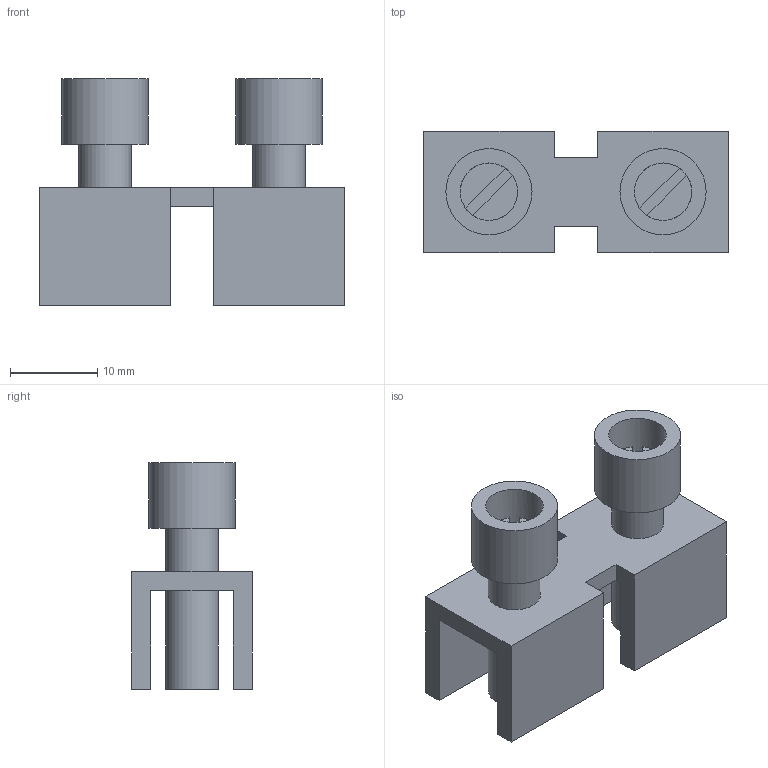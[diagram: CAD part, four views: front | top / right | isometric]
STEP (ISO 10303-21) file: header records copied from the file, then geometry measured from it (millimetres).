
FILE_DESCRIPTION( ('This file contains a STEP AP42 implementation' ,'as created by ZW3D STEP Interface translator.') ,'2;1' );
FILE_NAME( 'FBI 2-20.stp' ,'23 614. 84946', (''), ('ZWCAD Software Co.'), 'Version 1.0', 'ZW3D to STEP translator', '' );
FILE_SCHEMA(('AUTOMOTIVE_DESIGN { 1 0 10303 214 1 1 1 1 }'));
Length unit declared in the file: millimetre
Products named in the file (2): 0; 0201346
Bounding box: 35 x 13.9 x 26 mm (x, y, z)
Volume: 4276.1 mm3; surface area: 4197.9 mm2
Topology: 1 solids, 1 shells, 46 faces, 112 edges, 76 vertices
Faces by surface type: plane 38, cylinder 8
Full cylindrical faces by diameter (mm): 6 x4, 6.6 x2, 9.9 x2
Entity records: 1439 total; most frequent: CARTESIAN_POINT 235, DIRECTION 234, ORIENTED_EDGE 224, EDGE_CURVE 112, VECTOR 84, LINE 84, VERTEX_POINT 76, AXIS2_PLACEMENT_3D 75
